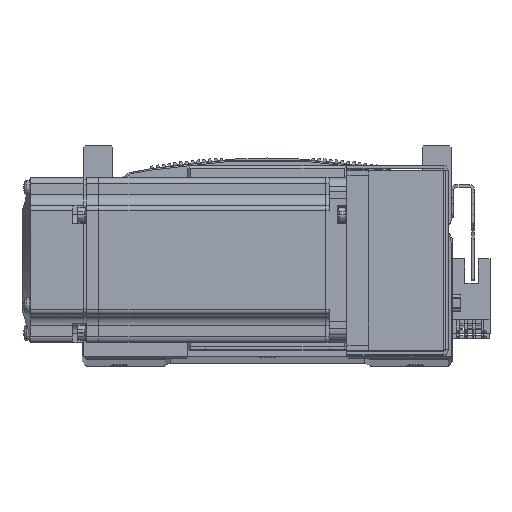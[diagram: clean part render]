
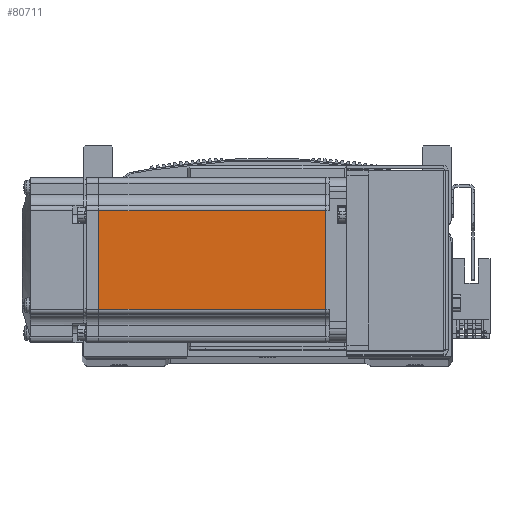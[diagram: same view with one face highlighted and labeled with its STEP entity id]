
A CAD part, top view. The second image highlights one B-rep face of the part: STEP entity #80711.
In plain terms, the highlighted planar face has unit normal (0, 0, 1) as drawn and (0, -1, 0) by its records, which use the part's own axes.
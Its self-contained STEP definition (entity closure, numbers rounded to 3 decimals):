
#17514 = DIRECTION ( 'NONE',  ( 0., 0., -1. ) ) ;
#17517 = CARTESIAN_POINT ( 'NONE',  ( -6.5, -30., 18. ) ) ;
#17519 = DIRECTION ( 'NONE',  ( -1., 0., 0. ) ) ;
#17584 = CARTESIAN_POINT ( 'NONE',  ( -7.75, -30., 0. ) ) ;
#21855 = AXIS2_PLACEMENT_3D ( 'NONE', #67284, #67249, #67226 ) ;
#24678 = CARTESIAN_POINT ( 'NONE',  ( -6.5, -30., -18. ) ) ;
#24683 = DIRECTION ( 'NONE',  ( -1., 0., 0. ) ) ;
#24766 = CARTESIAN_POINT ( 'NONE',  ( -90.45, -30., 0. ) ) ;
#24785 = DIRECTION ( 'NONE',  ( 0., 0., -1. ) ) ;
#29853 = VECTOR ( 'NONE', #24683, 1000. ) ;
#29857 = LINE ( 'NONE', #24678, #29853 ) ;
#29866 = VECTOR ( 'NONE', #24785, 1000. ) ;
#29870 = LINE ( 'NONE', #24766, #29866 ) ;
#35599 = LINE ( 'NONE', #17517, #35636 ) ;
#35623 = VECTOR ( 'NONE', #17514, 1000. ) ;
#35635 = LINE ( 'NONE', #17584, #35623 ) ;
#35636 = VECTOR ( 'NONE', #17519, 1000. ) ;
#41218 = EDGE_CURVE ( 'NONE', #47512, #47500, #35599, .T. ) ;
#41266 = EDGE_CURVE ( 'NONE', #47512, #47654, #35635, .T. ) ;
#47500 = VERTEX_POINT ( 'NONE', #56152 ) ;
#47512 = VERTEX_POINT ( 'NONE', #56138 ) ;
#47583 = VERTEX_POINT ( 'NONE', #56238 ) ;
#47654 = VERTEX_POINT ( 'NONE', #56302 ) ;
#56138 = CARTESIAN_POINT ( 'NONE',  ( -7.75, -30., 18. ) ) ;
#56152 = CARTESIAN_POINT ( 'NONE',  ( -90.45, -30., 18. ) ) ;
#56238 = CARTESIAN_POINT ( 'NONE',  ( -90.45, -30., -18. ) ) ;
#56302 = CARTESIAN_POINT ( 'NONE',  ( -7.75, -30., -18. ) ) ;
#63151 = ORIENTED_EDGE ( 'NONE', *, *, #68088, .T. ) ;
#63155 = ORIENTED_EDGE ( 'NONE', *, *, #41218, .T. ) ;
#63184 = ORIENTED_EDGE ( 'NONE', *, *, #68059, .F. ) ;
#63187 = ORIENTED_EDGE ( 'NONE', *, *, #41266, .F. ) ;
#65405 = EDGE_LOOP ( 'NONE', ( #63187, #63155, #63151, #63184 ) ) ;
#67226 = DIRECTION ( 'NONE',  ( 0., 0., -1. ) ) ;
#67242 = PLANE ( 'NONE',  #21855 ) ;
#67249 = DIRECTION ( 'NONE',  ( 0., -1., 0. ) ) ;
#67284 = CARTESIAN_POINT ( 'NONE',  ( -6.5, -30., -25. ) ) ;
#68059 = EDGE_CURVE ( 'NONE', #47654, #47583, #29857, .T. ) ;
#68088 = EDGE_CURVE ( 'NONE', #47500, #47583, #29870, .T. ) ;
#73916 = FACE_OUTER_BOUND ( 'NONE', #65405, .T. ) ;
#80711 = ADVANCED_FACE ( 'NONE', ( #73916 ), #67242, .T. ) ;
